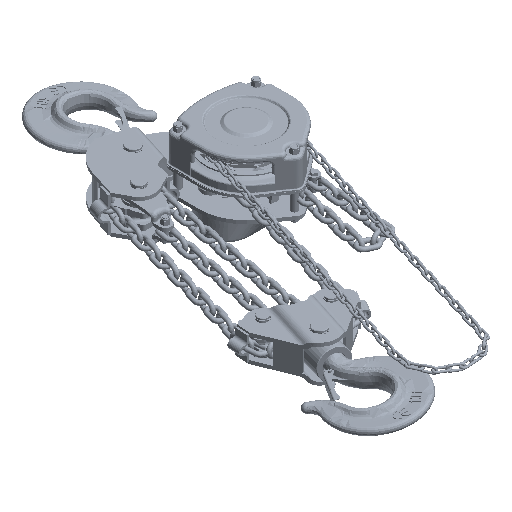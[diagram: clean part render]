
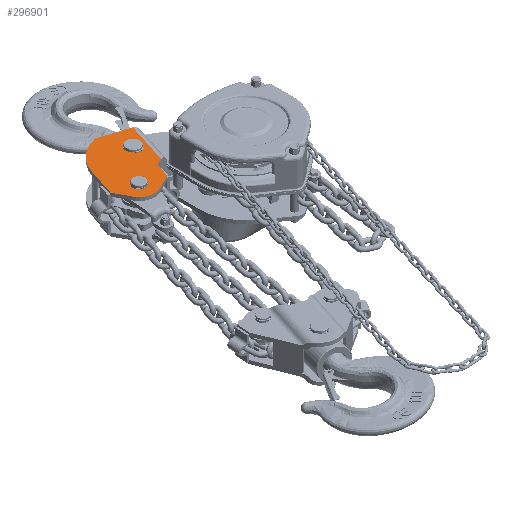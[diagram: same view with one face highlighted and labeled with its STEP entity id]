
A CAD part, isometric view. The second image highlights one B-rep face of the part: STEP entity #296901.
In plain terms, the highlighted planar face has unit normal (0, 0, 1).
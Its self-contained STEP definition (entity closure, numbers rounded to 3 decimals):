
#1231 = CARTESIAN_POINT ( 'NONE',  ( -176.23, 234.836, 20. ) ) ;
#1501 = DIRECTION ( 'NONE',  ( 0., 0., 1. ) ) ;
#4349 = FACE_OUTER_BOUND ( 'NONE', #298149, .T. ) ;
#7914 = VECTOR ( 'NONE', #323675, 1000. ) ;
#9919 = VERTEX_POINT ( 'NONE', #335970 ) ;
#9948 = CARTESIAN_POINT ( 'NONE',  ( -167.893, 74.765, 20. ) ) ;
#14142 = CARTESIAN_POINT ( 'NONE',  ( -149.28, 173.785, 20. ) ) ;
#14941 = CARTESIAN_POINT ( 'NONE',  ( -139.545, 121.182, 20. ) ) ;
#14996 = DIRECTION ( 'NONE',  ( 0., 0., -1. ) ) ;
#19450 = VERTEX_POINT ( 'NONE', #302887 ) ;
#19806 = EDGE_CURVE ( 'NONE', #206162, #315248, #148952, .T. ) ;
#21149 = AXIS2_PLACEMENT_3D ( 'NONE', #417745, #354768, #284680 ) ;
#23020 = ORIENTED_EDGE ( 'NONE', *, *, #222487, .F. ) ;
#29530 = CARTESIAN_POINT ( 'NONE',  ( -204.579, 86.444, 20. ) ) ;
#32409 = AXIS2_PLACEMENT_3D ( 'NONE', #80914, #14996, #284082 ) ;
#38100 = CARTESIAN_POINT ( 'NONE',  ( -152.334, 111.524, 20. ) ) ;
#41104 = AXIS2_PLACEMENT_3D ( 'NONE', #95231, #99548, #62997 ) ;
#41364 = ORIENTED_EDGE ( 'NONE', *, *, #136675, .F. ) ;
#46957 = ORIENTED_EDGE ( 'NONE', *, *, #393881, .F. ) ;
#46987 = ORIENTED_EDGE ( 'NONE', *, *, #382839, .F. ) ;
#56324 = CIRCLE ( 'NONE', #239854, 37. ) ;
#62997 = DIRECTION ( 'NONE',  ( -0.953, 0.303, 0. ) ) ;
#64200 = LINE ( 'NONE', #217076, #85221 ) ;
#78378 = CIRCLE ( 'NONE', #272882, 16.25 ) ;
#80914 = CARTESIAN_POINT ( 'NONE',  ( -218.396, 90.842, 20. ) ) ;
#83722 = DIRECTION ( 'NONE',  ( -0.303, -0.953, 0. ) ) ;
#85221 = VECTOR ( 'NONE', #378159, 1000. ) ;
#90417 = AXIS2_PLACEMENT_3D ( 'NONE', #266480, #336574, #398152 ) ;
#94250 = VERTEX_POINT ( 'NONE', #402781 ) ;
#95231 = CARTESIAN_POINT ( 'NONE',  ( -148.657, 102.224, 20. ) ) ;
#95586 = EDGE_LOOP ( 'NONE', ( #380878, #344740 ) ) ;
#99548 = DIRECTION ( 'NONE',  ( 0., 0., 1. ) ) ;
#100339 = VERTEX_POINT ( 'NONE', #429673 ) ;
#100747 = DIRECTION ( 'NONE',  ( 0.303, 0.953, 0. ) ) ;
#103864 = VERTEX_POINT ( 'NONE', #119581 ) ;
#107380 = CARTESIAN_POINT ( 'NONE',  ( -218.396, 90.842, 20. ) ) ;
#113657 = DIRECTION ( 'NONE',  ( -0.953, 0.303, 0. ) ) ;
#119581 = CARTESIAN_POINT ( 'NONE',  ( -232.213, 95.24, 20. ) ) ;
#123055 = VERTEX_POINT ( 'NONE', #1231 ) ;
#132666 = ORIENTED_EDGE ( 'NONE', *, *, #19806, .F. ) ;
#136049 = CARTESIAN_POINT ( 'NONE',  ( -251.045, 73.434, 20. ) ) ;
#136592 = ORIENTED_EDGE ( 'NONE', *, *, #230813, .F. ) ;
#136675 = EDGE_CURVE ( 'NONE', #167375, #275413, #376422, .T. ) ;
#139364 = EDGE_CURVE ( 'NONE', #393485, #380908, #424777, .T. ) ;
#140273 = ORIENTED_EDGE ( 'NONE', *, *, #139364, .F. ) ;
#140967 = DIRECTION ( 'NONE',  ( 0., 0., -1. ) ) ;
#142188 = VECTOR ( 'NONE', #262167, 1000. ) ;
#146249 = EDGE_LOOP ( 'NONE', ( #158997, #281745 ) ) ;
#148952 = LINE ( 'NONE', #149784, #7914 ) ;
#149784 = CARTESIAN_POINT ( 'NONE',  ( -121.765, 123.609, 20. ) ) ;
#150307 = DIRECTION ( 'NONE',  ( 0., 0., -1. ) ) ;
#152394 = CIRCLE ( 'NONE', #90417, 16.25 ) ;
#158997 = ORIENTED_EDGE ( 'NONE', *, *, #205940, .T. ) ;
#159150 = ORIENTED_EDGE ( 'NONE', *, *, #265607, .F. ) ;
#167375 = VERTEX_POINT ( 'NONE', #430179 ) ;
#180632 = CARTESIAN_POINT ( 'NONE',  ( -248.874, 169.822, 20. ) ) ;
#191355 = CARTESIAN_POINT ( 'NONE',  ( -268.899, 106.919, 20. ) ) ;
#194048 = ORIENTED_EDGE ( 'NONE', *, *, #316234, .F. ) ;
#200618 = VECTOR ( 'NONE', #267609, 1000. ) ;
#201806 = CARTESIAN_POINT ( 'NONE',  ( -67.057, 105.632, 20. ) ) ;
#203453 = DIRECTION ( 'NONE',  ( -0.303, -0.953, 0. ) ) ;
#205940 = EDGE_CURVE ( 'NONE', #19450, #100339, #152394, .T. ) ;
#206162 = VERTEX_POINT ( 'NONE', #339488 ) ;
#206873 = CIRCLE ( 'NONE', #32409, 14.5 ) ;
#217076 = CARTESIAN_POINT ( 'NONE',  ( -176.23, 234.836, 20. ) ) ;
#221393 = VECTOR ( 'NONE', #83722, 1000. ) ;
#222487 = EDGE_CURVE ( 'NONE', #275413, #9919, #289656, .T. ) ;
#230813 = EDGE_CURVE ( 'NONE', #9919, #393485, #56324, .T. ) ;
#231005 = CARTESIAN_POINT ( 'NONE',  ( -167.893, 74.765, 20. ) ) ;
#234230 = FACE_BOUND ( 'NONE', #146249, .T. ) ;
#235402 = DIRECTION ( 'NONE',  ( -0.953, 0.303, 0. ) ) ;
#239854 = AXIS2_PLACEMENT_3D ( 'NONE', #356309, #150307, #352017 ) ;
#258042 = LINE ( 'NONE', #14941, #221393 ) ;
#260974 = VECTOR ( 'NONE', #203453, 1000. ) ;
#262167 = DIRECTION ( 'NONE',  ( -0.47, 0.882, 0. ) ) ;
#263649 = CARTESIAN_POINT ( 'NONE',  ( -268.899, 106.919, 20. ) ) ;
#265607 = EDGE_CURVE ( 'NONE', #94250, #206162, #258042, .T. ) ;
#266480 = CARTESIAN_POINT ( 'NONE',  ( -149.28, 173.785, 20. ) ) ;
#267609 = DIRECTION ( 'NONE',  ( -0.894, -0.448, 0. ) ) ;
#272218 = CARTESIAN_POINT ( 'NONE',  ( -167.893, 74.765, 20. ) ) ;
#272882 = AXIS2_PLACEMENT_3D ( 'NONE', #14142, #349013, #113657 ) ;
#275413 = VERTEX_POINT ( 'NONE', #9948 ) ;
#279823 = DIRECTION ( 'NONE',  ( -0.953, 0.303, 0. ) ) ;
#281745 = ORIENTED_EDGE ( 'NONE', *, *, #395717, .T. ) ;
#283662 = CIRCLE ( 'NONE', #21149, 96. ) ;
#284082 = DIRECTION ( 'NONE',  ( -0.953, 0.303, 0. ) ) ;
#284680 = DIRECTION ( 'NONE',  ( -0.953, 0.303, 0. ) ) ;
#289656 = LINE ( 'NONE', #231005, #200618 ) ;
#296901 = ADVANCED_FACE ( 'NONE', ( #4349, #234230, #433272 ), #428742, .T. ) ;
#297597 = VECTOR ( 'NONE', #100747, 1000. ) ;
#298149 = EDGE_LOOP ( 'NONE', ( #46957, #395701, #46987, #140273, #136592, #23020, #41364, #194048, #132666, #159150 ) ) ;
#302887 = CARTESIAN_POINT ( 'NONE',  ( -133.795, 168.855, 20. ) ) ;
#315248 = VERTEX_POINT ( 'NONE', #38100 ) ;
#316234 = EDGE_CURVE ( 'NONE', #315248, #167375, #413275, .T. ) ;
#323675 = DIRECTION ( 'NONE',  ( -0.93, -0.368, 0. ) ) ;
#331176 = EDGE_CURVE ( 'NONE', #417954, #103864, #206873, .T. ) ;
#335970 = CARTESIAN_POINT ( 'NONE',  ( -201.818, 57.763, 20. ) ) ;
#336079 = CARTESIAN_POINT ( 'NONE',  ( -268.899, 106.919, 20. ) ) ;
#336574 = DIRECTION ( 'NONE',  ( 0., 0., -1. ) ) ;
#339488 = CARTESIAN_POINT ( 'NONE',  ( -141.221, 115.917, 20. ) ) ;
#344740 = ORIENTED_EDGE ( 'NONE', *, *, #357793, .T. ) ;
#349013 = DIRECTION ( 'NONE',  ( 0., 0., -1. ) ) ;
#351816 = AXIS2_PLACEMENT_3D ( 'NONE', #201806, #1501, #235402 ) ;
#352017 = DIRECTION ( 'NONE',  ( -0.953, 0.303, 0. ) ) ;
#353013 = CIRCLE ( 'NONE', #365165, 14.5 ) ;
#354768 = DIRECTION ( 'NONE',  ( 0., 0., -1. ) ) ;
#356309 = CARTESIAN_POINT ( 'NONE',  ( -218.396, 90.842, 20. ) ) ;
#357793 = EDGE_CURVE ( 'NONE', #103864, #417954, #353013, .T. ) ;
#365165 = AXIS2_PLACEMENT_3D ( 'NONE', #107380, #140967, #279823 ) ;
#376422 = LINE ( 'NONE', #272218, #260974 ) ;
#378159 = DIRECTION ( 'NONE',  ( 0.953, -0.303, 0. ) ) ;
#380878 = ORIENTED_EDGE ( 'NONE', *, *, #331176, .T. ) ;
#380908 = VERTEX_POINT ( 'NONE', #191355 ) ;
#382839 = EDGE_CURVE ( 'NONE', #380908, #409273, #418109, .T. ) ;
#384096 = EDGE_CURVE ( 'NONE', #409273, #123055, #283662, .T. ) ;
#393485 = VERTEX_POINT ( 'NONE', #136049 ) ;
#393881 = EDGE_CURVE ( 'NONE', #123055, #94250, #64200, .T. ) ;
#395701 = ORIENTED_EDGE ( 'NONE', *, *, #384096, .F. ) ;
#395717 = EDGE_CURVE ( 'NONE', #100339, #19450, #78378, .T. ) ;
#398152 = DIRECTION ( 'NONE',  ( -0.953, 0.303, 0. ) ) ;
#402781 = CARTESIAN_POINT ( 'NONE',  ( -110.069, 213.775, 20. ) ) ;
#409273 = VERTEX_POINT ( 'NONE', #180632 ) ;
#413275 = CIRCLE ( 'NONE', #41104, 10. ) ;
#417745 = CARTESIAN_POINT ( 'NONE',  ( -157.397, 140.702, 20. ) ) ;
#417954 = VERTEX_POINT ( 'NONE', #29530 ) ;
#418109 = LINE ( 'NONE', #336079, #297597 ) ;
#424777 = LINE ( 'NONE', #263649, #142188 ) ;
#428742 = PLANE ( 'NONE',  #351816 ) ;
#429673 = CARTESIAN_POINT ( 'NONE',  ( -164.764, 178.714, 20. ) ) ;
#430179 = CARTESIAN_POINT ( 'NONE',  ( -158.186, 105.258, 20. ) ) ;
#433272 = FACE_BOUND ( 'NONE', #95586, .T. ) ;
